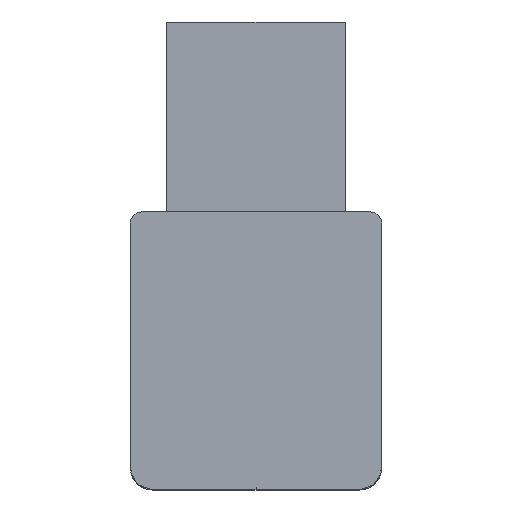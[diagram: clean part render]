
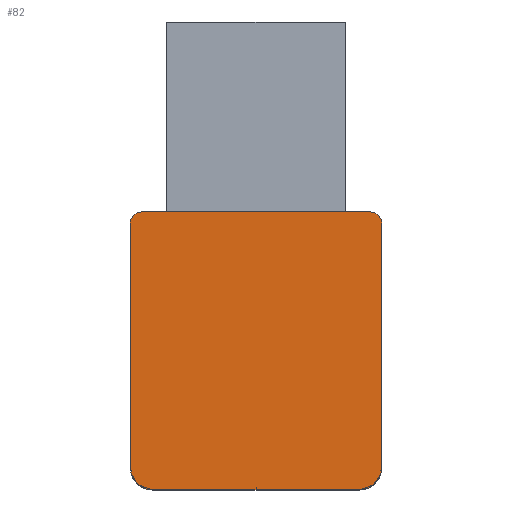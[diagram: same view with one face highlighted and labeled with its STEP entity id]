
A CAD part, front view. The second image highlights one B-rep face of the part: STEP entity #82.
In plain terms, the highlighted planar face has unit normal (0, -1, 0) as drawn and (0, 0, 1) by its records, which use the part's own axes.
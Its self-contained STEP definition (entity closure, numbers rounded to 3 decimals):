
#82=ADVANCED_FACE('',(#205),#2088,.T.);
#205=FACE_OUTER_BOUND('',#329,.T.);
#329=EDGE_LOOP('',(#738,#739,#740,#741,#742,#743,#744,#745));
#738=ORIENTED_EDGE('',*,*,#1335,.T.);
#739=ORIENTED_EDGE('',*,*,#1366,.T.);
#740=ORIENTED_EDGE('',*,*,#1337,.T.);
#741=ORIENTED_EDGE('',*,*,#1364,.T.);
#742=ORIENTED_EDGE('',*,*,#1342,.T.);
#743=ORIENTED_EDGE('',*,*,#1363,.T.);
#744=ORIENTED_EDGE('',*,*,#1325,.T.);
#745=ORIENTED_EDGE('',*,*,#1368,.T.);
#1325=EDGE_CURVE('',#2034,#2033,#1609,.T.);
#1335=EDGE_CURVE('',#2038,#2037,#1619,.T.);
#1337=EDGE_CURVE('',#2039,#2040,#1621,.T.);
#1342=EDGE_CURVE('',#2045,#2044,#1626,.T.);
#1363=EDGE_CURVE('',#2044,#2034,#1742,.T.);
#1364=EDGE_CURVE('',#2040,#2045,#1743,.T.);
#1366=EDGE_CURVE('',#2037,#2039,#1745,.T.);
#1368=EDGE_CURVE('',#2033,#2038,#1747,.T.);
#1609=B_SPLINE_CURVE_WITH_KNOTS('',1,(#4680,#4681),.UNSPECIFIED.,.F.,.F.,
(2,2),(-21.9,0.),.UNSPECIFIED.);
#1619=B_SPLINE_CURVE_WITH_KNOTS('',1,(#4700,#4701),.UNSPECIFIED.,.F.,.F.,
(2,2),(-20.5,0.),.UNSPECIFIED.);
#1621=B_SPLINE_CURVE_WITH_KNOTS('',1,(#4704,#4705),.UNSPECIFIED.,.F.,.F.,
(2,2),(-21.9,0.),.UNSPECIFIED.);
#1626=B_SPLINE_CURVE_WITH_KNOTS('',1,(#4714,#4715),.UNSPECIFIED.,.F.,.F.,
(2,2),(-18.5,0.),.UNSPECIFIED.);
#1742=(
BOUNDED_CURVE()
B_SPLINE_CURVE(2,(#4782,#4783,#4784),.UNSPECIFIED.,.F.,.F.)
B_SPLINE_CURVE_WITH_KNOTS((3,3),(-3.142,0.),.UNSPECIFIED.)
CURVE()
GEOMETRIC_REPRESENTATION_ITEM()
RATIONAL_B_SPLINE_CURVE((1.,0.707,1.))
REPRESENTATION_ITEM('')
);
#1743=(
BOUNDED_CURVE()
B_SPLINE_CURVE(2,(#4785,#4786,#4787),.UNSPECIFIED.,.F.,.F.)
B_SPLINE_CURVE_WITH_KNOTS((3,3),(-3.142,0.),.UNSPECIFIED.)
CURVE()
GEOMETRIC_REPRESENTATION_ITEM()
RATIONAL_B_SPLINE_CURVE((1.,0.707,1.))
REPRESENTATION_ITEM('')
);
#1745=(
BOUNDED_CURVE()
B_SPLINE_CURVE(2,(#4791,#4792,#4793),.UNSPECIFIED.,.F.,.F.)
B_SPLINE_CURVE_WITH_KNOTS((3,3),(-1.571,0.),.UNSPECIFIED.)
CURVE()
GEOMETRIC_REPRESENTATION_ITEM()
RATIONAL_B_SPLINE_CURVE((1.,0.707,1.))
REPRESENTATION_ITEM('')
);
#1747=(
BOUNDED_CURVE()
B_SPLINE_CURVE(2,(#4797,#4798,#4799),.UNSPECIFIED.,.F.,.F.)
B_SPLINE_CURVE_WITH_KNOTS((3,3),(-1.571,0.),.UNSPECIFIED.)
CURVE()
GEOMETRIC_REPRESENTATION_ITEM()
RATIONAL_B_SPLINE_CURVE((1.,0.707,1.))
REPRESENTATION_ITEM('')
);
#2033=VERTEX_POINT('',#3621);
#2034=VERTEX_POINT('',#3622);
#2037=VERTEX_POINT('',#3625);
#2038=VERTEX_POINT('',#3626);
#2039=VERTEX_POINT('',#3627);
#2040=VERTEX_POINT('',#3628);
#2044=VERTEX_POINT('',#3632);
#2045=VERTEX_POINT('',#3633);
#2088=PLANE('',#2273);
#2273=AXIS2_PLACEMENT_3D('',#2865,#2353,$);
#2353=DIRECTION('',(0.,0.,1.));
#2865=CARTESIAN_POINT('',(-13.5,-14.94,282.25));
#3621=CARTESIAN_POINT('',(11.25,11.45,282.25));
#3622=CARTESIAN_POINT('',(11.25,-10.45,282.25));
#3625=CARTESIAN_POINT('',(-10.25,12.45,282.25));
#3626=CARTESIAN_POINT('',(10.25,12.45,282.25));
#3627=CARTESIAN_POINT('',(-11.25,11.45,282.25));
#3628=CARTESIAN_POINT('',(-11.25,-10.45,282.25));
#3632=CARTESIAN_POINT('',(9.25,-12.45,282.25));
#3633=CARTESIAN_POINT('',(-9.25,-12.45,282.25));
#4680=CARTESIAN_POINT('',(11.25,-10.45,282.25));
#4681=CARTESIAN_POINT('',(11.25,11.45,282.25));
#4700=CARTESIAN_POINT('',(10.25,12.45,282.25));
#4701=CARTESIAN_POINT('',(-10.25,12.45,282.25));
#4704=CARTESIAN_POINT('',(-11.25,11.45,282.25));
#4705=CARTESIAN_POINT('',(-11.25,-10.45,282.25));
#4714=CARTESIAN_POINT('',(-9.25,-12.45,282.25));
#4715=CARTESIAN_POINT('',(9.25,-12.45,282.25));
#4782=CARTESIAN_POINT('',(9.25,-12.45,282.25));
#4783=CARTESIAN_POINT('',(11.25,-12.45,282.25));
#4784=CARTESIAN_POINT('',(11.25,-10.45,282.25));
#4785=CARTESIAN_POINT('',(-11.25,-10.45,282.25));
#4786=CARTESIAN_POINT('',(-11.25,-12.45,282.25));
#4787=CARTESIAN_POINT('',(-9.25,-12.45,282.25));
#4791=CARTESIAN_POINT('',(-10.25,12.45,282.25));
#4792=CARTESIAN_POINT('',(-11.25,12.45,282.25));
#4793=CARTESIAN_POINT('',(-11.25,11.45,282.25));
#4797=CARTESIAN_POINT('',(11.25,11.45,282.25));
#4798=CARTESIAN_POINT('',(11.25,12.45,282.25));
#4799=CARTESIAN_POINT('',(10.25,12.45,282.25));
